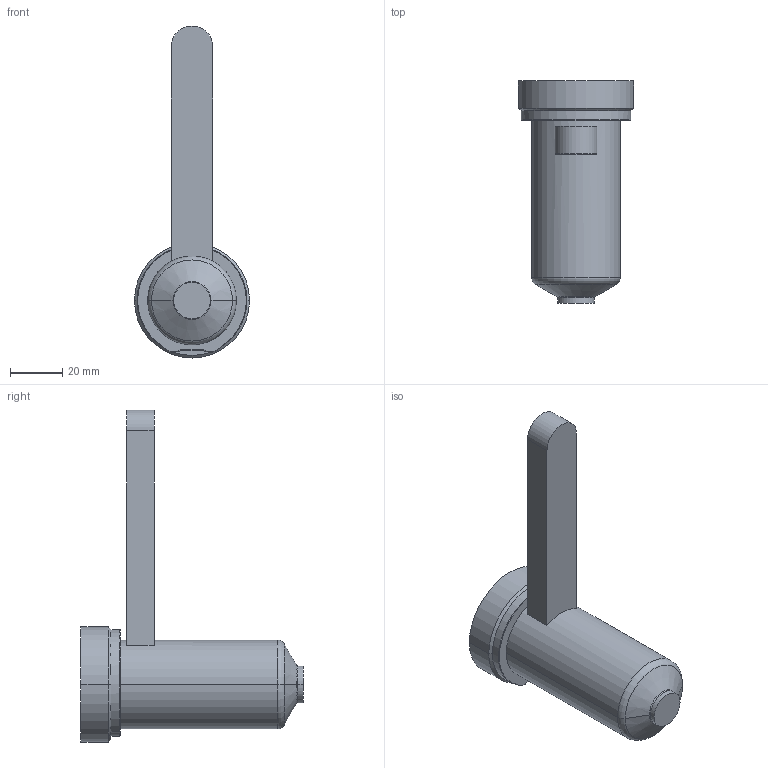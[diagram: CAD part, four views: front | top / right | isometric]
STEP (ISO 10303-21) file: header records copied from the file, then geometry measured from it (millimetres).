
FILE_DESCRIPTION((''),'2;1');
FILE_NAME('EO10_PG-FB_WR_070_COT','2024-02-19T11:34:33',('sundharh'),(''),'CREO PARAMETRIC BY PTC INC, 2023154','CREO PARAMETRIC BY PTC INC, 2023154','');
FILE_SCHEMA(('CONFIG_CONTROL_DESIGN'));
Length unit declared in the file: millimetre
Products named in the file (1): EO10_PG-FB_WR_070_COT
Bounding box: 44 x 85 x 127 mm (x, y, z)
Volume: 96110.7 mm3; surface area: 16388.4 mm2
Topology: 1 solids, 1 shells, 31 faces, 67 edges, 40 vertices
Faces by surface type: cylinder 11, plane 9, torus 7, cone 4
Entity records: 959 total; most frequent: CARTESIAN_POINT 226, DIRECTION 159, ORIENTED_EDGE 134, AXIS2_PLACEMENT_3D 67, EDGE_CURVE 67, VERTEX_POINT 40, CIRCLE 36, EDGE_LOOP 33
